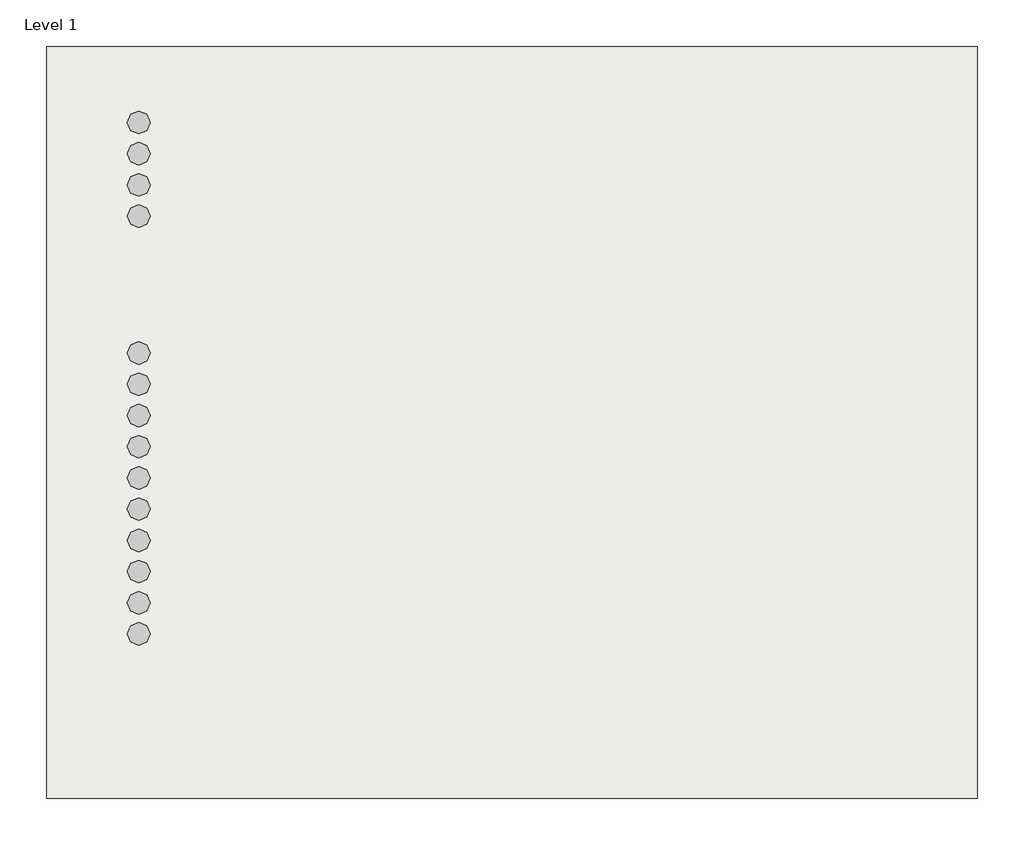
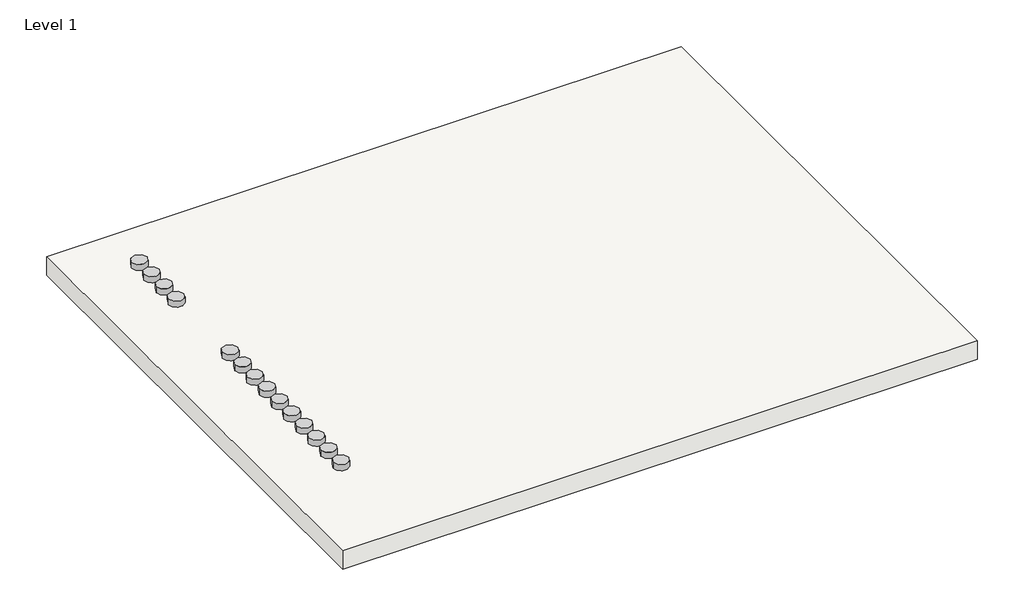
# One storey, incomplete: 14 proxies, 1 slab.
"""IFC4 building model written with IfcOpenShell, lengths in millimetres."""

import ifcopenshell
import ifcopenshell.guid

model = None  # the IFC model being written
_history = None  # IfcOwnerHistory: only IFC2X3 demands one
_inside = {}  # id of a spatial element -> (the spatial element, [elements in it])
_under = {}  # id of a project, library or spatial element -> (it, [spatial elements below it])
_declared = {}  # id of a project -> (the project, [libraries it declares])
_typed = {}  # id of a type object -> (the type object, [elements of that type])
_made_of = {}  # id of a material, layer set ... -> (it, [elements and type objects made of it])


def new_model(schema):
    """Start an empty IFC model of exactly this schema.

    Asked for "IFC4X3", IfcOpenShell would pick the latest addendum, in which some entities
    have other attributes; the version numbers below select the first issue.
    IFC2X3 requires an IfcOwnerHistory on every rooted entity: one is made here for all.
    """
    global model, _history
    if schema == "IFC4X3":
        model = ifcopenshell.file(schema_version=(4, 3, 0, 0))
    else:
        model = ifcopenshell.file(schema=schema)
    _inside.clear()
    _under.clear()
    _declared.clear()
    _typed.clear()
    _made_of.clear()
    _history = None
    if model.schema == "IFC2X3":
        org = make("IfcOrganization", Name="unknown")
        user = make(
            "IfcPersonAndOrganization",
            ThePerson=make("IfcPerson", FamilyName="unknown"),
            TheOrganization=org,
        )
        app = make(
            "IfcApplication",
            ApplicationDeveloper=org,
            Version="unknown",
            ApplicationFullName="unknown",
            ApplicationIdentifier="unknown",
        )
        _history = make(
            "IfcOwnerHistory",
            OwningUser=user,
            OwningApplication=app,
            ChangeAction="ADDED",
            CreationDate=0,
        )
    return model


def make(cls, **values):
    """One entity of the class cls with the attributes given. An attribute that is None is left unset."""
    return model.create_entity(
        cls, **{name: value for name, value in values.items() if value is not None}
    )


def rooted(cls, **values):
    """An entity with a GlobalId (a new one), such as an element, a storey or a relation."""
    return make(cls, GlobalId=ifcopenshell.guid.new(), OwnerHistory=_history, **values)


def si_unit(unit_type, name, prefix=None):
    """IfcSIUnit, for example si_unit("LENGTHUNIT", "METRE", prefix="MILLI")."""
    return make("IfcSIUnit", UnitType=unit_type, Prefix=prefix, Name=name)


def assignment(units):
    """IfcUnitAssignment: the units of a project."""
    return None if units is None else make("IfcUnitAssignment", Units=units)


def point(xyz):
    """IfcCartesianPoint."""
    return None if xyz is None else make("IfcCartesianPoint", Coordinates=xyz)


def direction(xyz):
    """IfcDirection."""
    return None if xyz is None else make("IfcDirection", DirectionRatios=xyz)


def frame(location, z_axis=None, x_axis=None):
    """IfcAxis2Placement3D, a coordinate frame: its origin and axes. An axis left out is left unset."""
    return make(
        "IfcAxis2Placement3D",
        Location=point(location),
        Axis=direction(z_axis),
        RefDirection=direction(x_axis),
    )


def frame_2d(location, x_axis=None):
    """IfcAxis2Placement2D, a coordinate frame in the plane: its origin and x axis."""
    return make(
        "IfcAxis2Placement2D", Location=point(location), RefDirection=direction(x_axis)
    )


def origin():
    """The frame at (0, 0, 0) with its axes left unset."""
    return frame((0.0, 0.0, 0.0))


def origin_with_axes():
    """The frame at (0, 0, 0) with the z axis (0, 0, 1) and the x axis (1, 0, 0) written out."""
    return frame((0.0, 0.0, 0.0), z_axis=(0.0, 0.0, 1.0), x_axis=(1.0, 0.0, 0.0))


def origin_2d():
    """The frame at (0, 0) in the plane with its x axis left unset."""
    return frame_2d((0.0, 0.0))


def place(relative_to, where):
    """IfcLocalPlacement: puts the frame where relative to a parent placement (None: the world)."""
    return make(
        "IfcLocalPlacement", PlacementRelTo=relative_to, RelativePlacement=where
    )


def context(
    kind, dimensions, precision=None, world=None, true_north=None, identifier=None
):
    """IfcGeometricRepresentationContext, for example the 3D "Model" context."""
    return make(
        "IfcGeometricRepresentationContext",
        ContextIdentifier=identifier,
        ContextType=kind,
        CoordinateSpaceDimension=dimensions,
        Precision=precision,
        WorldCoordinateSystem=world,
        TrueNorth=true_north,
    )


def project(units=None, contexts=None):
    """IfcProject with its units and contexts."""
    return rooted(
        "IfcProject",
        Name="project",
        RepresentationContexts=contexts,
        UnitsInContext=assignment(units),
    )


def spatial(cls, under=None, at=None, **own):
    """A site, building, storey or space (cls), placed at a placement, below another one or the project."""
    s = rooted(cls, ObjectPlacement=at, **own)
    if under is not None:
        _under.setdefault(under.id(), (under, []))[1].append(s)
    return s


def polyline(points):
    """IfcPolyline through the points."""
    return make("IfcPolyline", Points=[point(p) for p in points])


def circle_curve(where, radius):
    """IfcCircle in the frame where."""
    return make("IfcCircle", Position=where, Radius=radius)


def trimmed(basis, trim1, trim2, sense, master):
    """IfcTrimmedCurve: the piece of a basis curve between two trims."""
    return make(
        "IfcTrimmedCurve",
        BasisCurve=basis,
        Trim1=trim1,
        Trim2=trim2,
        SenseAgreement=sense,
        MasterRepresentation=master,
    )


def segment(curve, same_sense, transition):
    """IfcCompositeCurveSegment."""
    return make(
        "IfcCompositeCurveSegment",
        Transition=transition,
        SameSense=same_sense,
        ParentCurve=curve,
    )


def composite_curve(segments, self_intersect=None):
    """IfcCompositeCurve: segments joined end to end."""
    return make("IfcCompositeCurve", Segments=segments, SelfIntersect=self_intersect)


def outline(outer, holes=None, kind="AREA"):
    """IfcArbitraryClosedProfileDef: a profile drawn as a closed curve; with holes, ...WithVoids."""
    if holes is None:
        return make("IfcArbitraryClosedProfileDef", ProfileType=kind, OuterCurve=outer)
    return make(
        "IfcArbitraryProfileDefWithVoids",
        ProfileType=kind,
        OuterCurve=outer,
        InnerCurves=holes,
    )


def extrude(swept, where, along, depth):
    """IfcExtrudedAreaSolid: the profile swept, set in the frame where, extruded along a direction by depth."""
    return make(
        "IfcExtrudedAreaSolid",
        SweptArea=swept,
        Position=where,
        ExtrudedDirection=direction(along),
        Depth=depth,
    )


def shape(context_of_items, identifier, shape_type, items):
    """IfcShapeRepresentation: the items that make up one representation, for example the "Body"."""
    return make(
        "IfcShapeRepresentation",
        ContextOfItems=context_of_items,
        RepresentationIdentifier=identifier,
        RepresentationType=shape_type,
        Items=items,
    )


def source(mapping_origin, context_of_items, identifier, shape_type, items):
    """IfcRepresentationMap: a shape defined once, which mapped items show again and again."""
    return make(
        "IfcRepresentationMap",
        MappingOrigin=mapping_origin,
        MappedRepresentation=shape(context_of_items, identifier, shape_type, items),
    )


def transform(
    local_origin,
    x_axis=None,
    y_axis=None,
    z_axis=None,
    scale=None,
    scale2=None,
    scale3=None,
    uniform=True,
):
    """IfcCartesianTransformationOperator3D, or its non-uniform kind. x_axis, y_axis, z_axis: its Axis1, 2, 3."""
    if uniform:
        return make(
            "IfcCartesianTransformationOperator3D",
            Axis1=direction(x_axis),
            Axis2=direction(y_axis),
            LocalOrigin=point(local_origin),
            Scale=scale,
            Axis3=direction(z_axis),
        )
    return make(
        "IfcCartesianTransformationOperator3DnonUniform",
        Axis1=direction(x_axis),
        Axis2=direction(y_axis),
        LocalOrigin=point(local_origin),
        Scale=scale,
        Axis3=direction(z_axis),
        Scale2=scale2,
        Scale3=scale3,
    )


def mapped(mapping_source, mapping_target):
    """IfcMappedItem: shows the shape of a source again, moved by a transform."""
    return make(
        "IfcMappedItem", MappingSource=mapping_source, MappingTarget=mapping_target
    )


def made_of(thing, what):
    """Note that an element or type object is made of a material, layer set ...; save() writes the relation."""
    if what is not None:
        _made_of.setdefault(what.id(), (what, []))[1].append(thing)
    return thing


def element(
    cls,
    number,
    at=None,
    inside=None,
    cuts=None,
    type_object=None,
    material=None,
    context=None,
    identifier="Body",
    shape_type=None,
    held_by="IfcProductDefinitionShape",
    body=None,
    shapes=None,
    **own,
):
    """One element of the class cls, such as IfcWall. Its Tag is "e" and its number.

    at: its placement. inside: the storey or other place that contains it. cuts: it is an
    opening in that element (IfcRelVoidsElement). A single representation is given by context,
    identifier, shape_type and body (its items); several are given by shapes. held_by: the class
    of the entity that holds the representations. save() writes the other relations.
    """
    e = rooted(cls, Tag="e%d" % number, ObjectPlacement=at, **own)
    if body is not None:
        shapes = [shape(context, identifier, shape_type, body)]
    if shapes is not None:
        e.Representation = make(held_by, Representations=shapes)
    if inside is not None:
        _inside.setdefault(inside.id(), (inside, []))[1].append(e)
    if cuts is not None:
        rooted(
            "IfcRelVoidsElement", RelatingBuildingElement=cuts, RelatedOpeningElement=e
        )
    if type_object is not None:
        _typed.setdefault(type_object.id(), (type_object, []))[1].append(e)
    return made_of(e, material)


def aggregate(whole, parts):
    """IfcRelAggregates: a whole, such as a stair, and the parts it consists of."""
    return rooted("IfcRelAggregates", RelatingObject=whole, RelatedObjects=parts)


def save(model, path):
    """Write the relations noted so far, then the file.

    IfcRelAggregates (storeys below a building ...), IfcRelContainedInSpatialStructure (elements
    in a storey), IfcRelDefinesByType, IfcRelAssociatesMaterial and IfcRelDeclares: one each for
    every whole, place, type object, material and project.
    """
    for whole, parts in _under.values():
        aggregate(whole, parts)
    for where, things in _inside.values():
        rooted(
            "IfcRelContainedInSpatialStructure",
            RelatedElements=things,
            RelatingStructure=where,
        )
    for kind, things in _typed.values():
        rooted("IfcRelDefinesByType", RelatedObjects=things, RelatingType=kind)
    for what, things in _made_of.values():
        rooted("IfcRelAssociatesMaterial", RelatedObjects=things, RelatingMaterial=what)
    for by, libraries in _declared.values():
        rooted("IfcRelDeclares", RelatingContext=by, RelatedDefinitions=libraries)
    model.write(path)


def materialmodel_materialmodel_66f02381(model_context):
    return source(origin(), model_context, "Body", "SweptSolid", [
        extrude(outline(composite_curve([segment(trimmed(circle_curve(origin_2d(), 60.0), [point((-60.0, 0.0))], [point((60.0, 0.0))], False, "CARTESIAN"), True, "CONTINUOUS"), segment(trimmed(circle_curve(origin_2d(), 60.0), [point((60.0, 0.0))], [point((-60.0, 0.0))], False, "CARTESIAN"), True, "CONTINUOUS")], self_intersect=False)), origin_with_axes(), (0.0, 0.0, 1.0), 50.0),
    ])


model = new_model("IFC4")

# Units and contexts
model_context = context("Model", 3, world=origin())
ifc_project = project(units=[si_unit("LENGTHUNIT", "METRE", prefix="MILLI")], contexts=[model_context])

# Site, building, storey
site = spatial("IfcSite", under=ifc_project)
building = spatial("IfcBuilding", under=site)
storey = spatial("IfcBuildingStorey", under=building, Name="Level 1", Elevation=0.0)

# Proxies
placement = place(None, origin())
materialmodel_materialmodel_shape = materialmodel_materialmodel_66f02381(model_context)
element("IfcBuildingElementProxy", 1, Name="MaterialModel : MaterialModel", ObjectType="MaterialModel : MaterialModel", at=placement, inside=storey, context=model_context, shape_type="MappedRepresentation", body=[
    mapped(materialmodel_materialmodel_shape, transform((-5619.8812659, 4506.1647582, 0.0), x_axis=(1.0, 0.0, 0.0), y_axis=(0.0, 1.0, 0.0), z_axis=(0.0, 0.0, 1.0))),
])
element("IfcBuildingElementProxy", 2, Name="MaterialModel : MaterialModel", ObjectType="MaterialModel : MaterialModel", at=placement, inside=storey, context=model_context, shape_type="MappedRepresentation", body=[
    mapped(materialmodel_materialmodel_shape, transform((-5619.8812659, 4341.7203137, 0.0), x_axis=(1.0, 0.0, 0.0), y_axis=(0.0, 1.0, 0.0), z_axis=(0.0, 0.0, 1.0))),
])
element("IfcBuildingElementProxy", 3, Name="MaterialModel : MaterialModel", ObjectType="MaterialModel : MaterialModel", at=placement, inside=storey, context=model_context, shape_type="MappedRepresentation", body=[
    mapped(materialmodel_materialmodel_shape, transform((-5619.8812659, 4177.2758693, 0.0), x_axis=(1.0, 0.0, 0.0), y_axis=(0.0, 1.0, 0.0), z_axis=(0.0, 0.0, 1.0))),
])
element("IfcBuildingElementProxy", 4, Name="MaterialModel : MaterialModel", ObjectType="MaterialModel : MaterialModel", at=placement, inside=storey, context=model_context, shape_type="MappedRepresentation", body=[
    mapped(materialmodel_materialmodel_shape, transform((-5619.8812659, 4012.8314248, 0.0), x_axis=(1.0, 0.0, 0.0), y_axis=(0.0, 1.0, 0.0), z_axis=(0.0, 0.0, 1.0))),
])
element("IfcBuildingElementProxy", 5, Name="MaterialModel : MaterialModel", ObjectType="MaterialModel : MaterialModel", at=placement, inside=storey, context=model_context, shape_type="MappedRepresentation", body=[
    mapped(materialmodel_materialmodel_shape, transform((-5619.8812659, 1811.910433, 0.0), x_axis=(1.0, 0.0, 0.0), y_axis=(0.0, 1.0, 0.0), z_axis=(0.0, 0.0, 1.0))),
])
element("IfcBuildingElementProxy", 6, Name="MaterialModel : MaterialModel", ObjectType="MaterialModel : MaterialModel", at=placement, inside=storey, context=model_context, shape_type="MappedRepresentation", body=[
    mapped(materialmodel_materialmodel_shape, transform((-5619.8812659, 3291.910433, 0.0), x_axis=(1.0, 0.0, 0.0), y_axis=(0.0, 1.0, 0.0), z_axis=(0.0, 0.0, 1.0))),
])
element("IfcBuildingElementProxy", 7, Name="MaterialModel : MaterialModel", ObjectType="MaterialModel : MaterialModel", at=placement, inside=storey, context=model_context, shape_type="MappedRepresentation", body=[
    mapped(materialmodel_materialmodel_shape, transform((-5619.8812659, 2634.1326552, 0.0), x_axis=(1.0, 0.0, 0.0), y_axis=(0.0, 1.0, 0.0), z_axis=(0.0, 0.0, 1.0))),
])
element("IfcBuildingElementProxy", 8, Name="MaterialModel : MaterialModel", ObjectType="MaterialModel : MaterialModel", at=placement, inside=storey, context=model_context, shape_type="MappedRepresentation", body=[
    mapped(materialmodel_materialmodel_shape, transform((-5619.8812659, 3127.4659885, 0.0), x_axis=(1.0, 0.0, 0.0), y_axis=(0.0, 1.0, 0.0), z_axis=(0.0, 0.0, 1.0))),
])
element("IfcBuildingElementProxy", 9, Name="MaterialModel : MaterialModel", ObjectType="MaterialModel : MaterialModel", at=placement, inside=storey, context=model_context, shape_type="MappedRepresentation", body=[
    mapped(materialmodel_materialmodel_shape, transform((-5619.8812659, 2963.0215441, 0.0), x_axis=(1.0, 0.0, 0.0), y_axis=(0.0, 1.0, 0.0), z_axis=(0.0, 0.0, 1.0))),
])
element("IfcBuildingElementProxy", 10, Name="MaterialModel : MaterialModel", ObjectType="MaterialModel : MaterialModel", at=placement, inside=storey, context=model_context, shape_type="MappedRepresentation", body=[
    mapped(materialmodel_materialmodel_shape, transform((-5619.8812659, 2798.5770996, 0.0), x_axis=(1.0, 0.0, 0.0), y_axis=(0.0, 1.0, 0.0), z_axis=(0.0, 0.0, 1.0))),
])
element("IfcBuildingElementProxy", 11, Name="MaterialModel : MaterialModel", ObjectType="MaterialModel : MaterialModel", at=placement, inside=storey, context=model_context, shape_type="MappedRepresentation", body=[
    mapped(materialmodel_materialmodel_shape, transform((-5619.8812659, 2469.6882107, 0.0), x_axis=(1.0, 0.0, 0.0), y_axis=(0.0, 1.0, 0.0), z_axis=(0.0, 0.0, 1.0))),
])
element("IfcBuildingElementProxy", 12, Name="MaterialModel : MaterialModel", ObjectType="MaterialModel : MaterialModel", at=placement, inside=storey, context=model_context, shape_type="MappedRepresentation", body=[
    mapped(materialmodel_materialmodel_shape, transform((-5619.8812659, 2305.2437663, 0.0), x_axis=(1.0, 0.0, 0.0), y_axis=(0.0, 1.0, 0.0), z_axis=(0.0, 0.0, 1.0))),
])
element("IfcBuildingElementProxy", 13, Name="MaterialModel : MaterialModel", ObjectType="MaterialModel : MaterialModel", at=placement, inside=storey, context=model_context, shape_type="MappedRepresentation", body=[
    mapped(materialmodel_materialmodel_shape, transform((-5619.8812659, 2140.7993218, 0.0), x_axis=(1.0, 0.0, 0.0), y_axis=(0.0, 1.0, 0.0), z_axis=(0.0, 0.0, 1.0))),
])
element("IfcBuildingElementProxy", 14, Name="MaterialModel : MaterialModel", ObjectType="MaterialModel : MaterialModel", at=placement, inside=storey, context=model_context, shape_type="MappedRepresentation", body=[
    mapped(materialmodel_materialmodel_shape, transform((-5619.8812659, 1976.3548774, 0.0), x_axis=(1.0, 0.0, 0.0), y_axis=(0.0, 1.0, 0.0), z_axis=(0.0, 0.0, 1.0))),
])

# Slab
element("IfcSlab", 15, ObjectType="Generic 150mm", at=placement, inside=storey, context=model_context, shape_type="SweptSolid", body=[
    extrude(outline(polyline([(-1204.795037, 4906.0981081), (-1204.795037, 946.0981081), (-6104.795037, 946.0981081), (-6104.795037, 4906.0981081), (-1204.795037, 4906.0981081)])), frame((0.0, 0.0, -150.0), z_axis=(0.0, 0.0, 1.0), x_axis=(1.0, 0.0, 0.0)), (0.0, 0.0, 1.0), 150.0),
])

save(model, "model.ifc")
